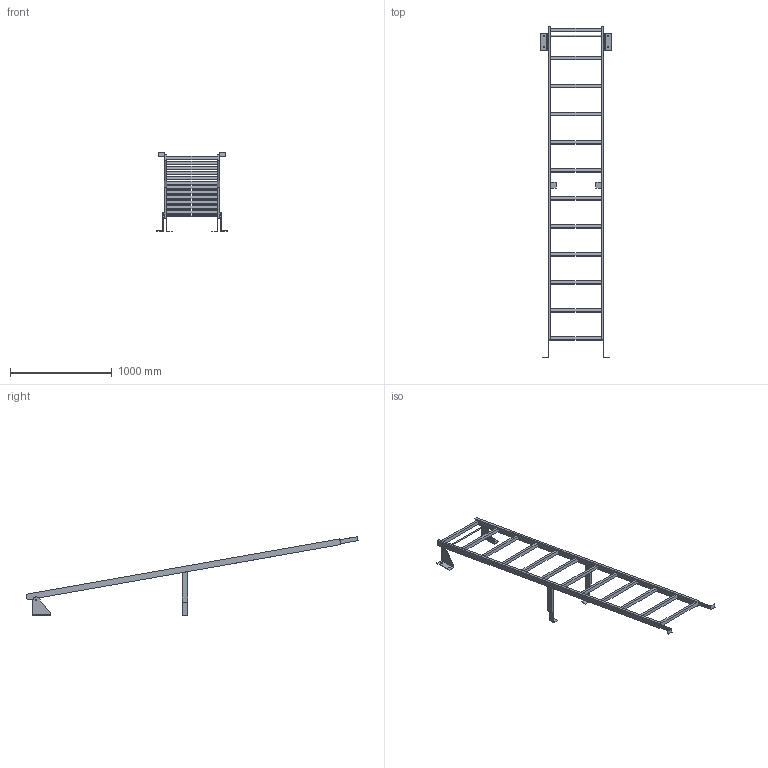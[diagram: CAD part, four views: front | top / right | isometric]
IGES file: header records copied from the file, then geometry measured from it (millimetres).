
Start section:  PTC IGES file: 52309776.igs
Global section: file name: 52309776.igs; native system: Creo Parametric by PTC Inc.; preprocessor: 2022162; author: wep; organization: Unknown; date: 20241017.090313; units: millimetre
Bounding box: 690 x 3262.23 x 772.65 mm (x, y, z)
Surface area: 2107034.2 mm2 (no closed solid volume)
Topology: 0 solids, 0 shells, 132 faces, 696 edges, 696 vertices
Faces by surface type: bspline 116, revolution 16
